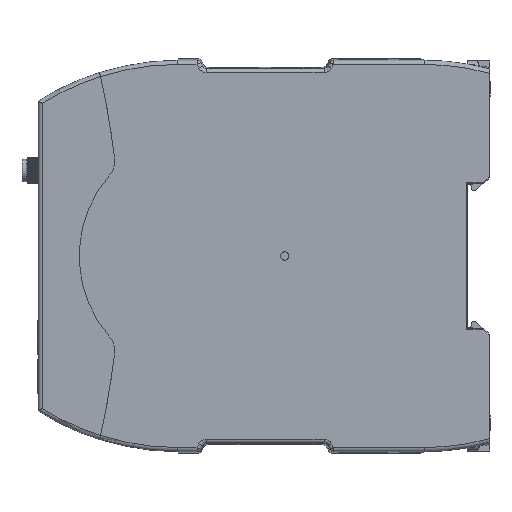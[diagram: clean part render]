
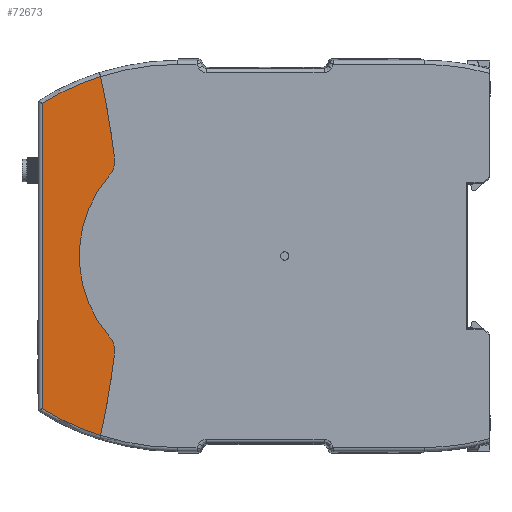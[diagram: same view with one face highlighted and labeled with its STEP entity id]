
A CAD part, left-side view. The second image highlights one B-rep face of the part: STEP entity #72673.
In plain terms, the highlighted planar face has unit normal (-1, 0, 0) as drawn and (0, 0, 1) by its records, which use the part's own axes.
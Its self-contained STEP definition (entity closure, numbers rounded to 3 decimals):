
#7234=FACE_OUTER_BOUND('',#11384,.T.);
#11384=EDGE_LOOP('',(#59956,#59957,#59958,#59959,#59960,#59961,#59962,#59963));
#15590=CIRCLE('',#78708,200.);
#15593=CIRCLE('',#78718,62.539);
#15594=CIRCLE('',#78720,5.);
#15595=CIRCLE('',#78721,30.);
#15596=CIRCLE('',#78722,5.);
#15597=CIRCLE('',#78723,200.);
#15598=CIRCLE('',#78724,62.539);
#20245=LINE('',#131147,#26686);
#26686=VECTOR('',#93949,74.369);
#33362=VERTEX_POINT('',#131081);
#33363=VERTEX_POINT('',#131083);
#33372=VERTEX_POINT('',#131120);
#33373=VERTEX_POINT('',#131137);
#33374=VERTEX_POINT('',#131139);
#33375=VERTEX_POINT('',#131141);
#33376=VERTEX_POINT('',#131143);
#33377=VERTEX_POINT('',#131145);
#42652=EDGE_CURVE('',#33362,#33363,#15590,.T.);
#42665=EDGE_CURVE('',#33372,#33363,#15593,.T.);
#42667=EDGE_CURVE('',#33362,#33373,#15594,.T.);
#42668=EDGE_CURVE('',#33373,#33374,#15595,.T.);
#42669=EDGE_CURVE('',#33374,#33375,#15596,.T.);
#42670=EDGE_CURVE('',#33376,#33375,#15597,.T.);
#42671=EDGE_CURVE('',#33376,#33377,#15598,.T.);
#42672=EDGE_CURVE('',#33377,#33372,#20245,.T.);
#59956=ORIENTED_EDGE('',*,*,#42667,.T.);
#59957=ORIENTED_EDGE('',*,*,#42668,.T.);
#59958=ORIENTED_EDGE('',*,*,#42669,.T.);
#59959=ORIENTED_EDGE('',*,*,#42670,.F.);
#59960=ORIENTED_EDGE('',*,*,#42671,.T.);
#59961=ORIENTED_EDGE('',*,*,#42672,.T.);
#59962=ORIENTED_EDGE('',*,*,#42665,.T.);
#59963=ORIENTED_EDGE('',*,*,#42652,.F.);
#69250=PLANE('',#78719);
#72673=ADVANCED_FACE('',(#7234),#69250,.T.);
#78708=AXIS2_PLACEMENT_3D('',#131084,#93909,#93910);
#78718=AXIS2_PLACEMENT_3D('',#131121,#93935,#93936);
#78719=AXIS2_PLACEMENT_3D('',#131136,#93937,#93938);
#78720=AXIS2_PLACEMENT_3D('',#131138,#93939,#93940);
#78721=AXIS2_PLACEMENT_3D('',#131140,#93941,#93942);
#78722=AXIS2_PLACEMENT_3D('',#131142,#93943,#93944);
#78723=AXIS2_PLACEMENT_3D('',#131144,#93945,#93946);
#78724=AXIS2_PLACEMENT_3D('',#131146,#93947,#93948);
#93909=DIRECTION('center_axis',(0.,0.,-1.));
#93910=DIRECTION('ref_axis',(-0.118,-0.993,0.));
#93935=DIRECTION('center_axis',(0.,0.,1.));
#93936=DIRECTION('ref_axis',(-0.849,0.528,0.));
#93937=DIRECTION('center_axis',(0.,0.,1.));
#93938=DIRECTION('ref_axis',(1.,0.,0.));
#93939=DIRECTION('center_axis',(0.,0.,1.));
#93940=DIRECTION('ref_axis',(-0.118,-0.993,0.));
#93941=DIRECTION('center_axis',(0.,0.,-1.));
#93942=DIRECTION('ref_axis',(-0.658,0.753,0.));
#93943=DIRECTION('center_axis',(0.,0.,1.));
#93944=DIRECTION('ref_axis',(-0.658,-0.753,0.));
#93945=DIRECTION('center_axis',(0.,0.,-1.));
#93946=DIRECTION('ref_axis',(0.218,-0.976,0.));
#93947=DIRECTION('center_axis',(0.,0.,1.));
#93948=DIRECTION('ref_axis',(0.954,0.301,0.));
#93949=DIRECTION('',(-1.,0.,0.));
#131081=CARTESIAN_POINT('',(-23.611,91.399,11.25));
#131083=CARTESIAN_POINT('',(-43.697,94.832,11.25));
#131084=CARTESIAN_POINT('Origin',(0.,290.,11.25));
#131120=CARTESIAN_POINT('',(-37.185,109.,11.25));
#131121=CARTESIAN_POINT('Origin',(15.939,76.,11.25));
#131136=CARTESIAN_POINT('Origin',(0.,0.,11.25));
#131137=CARTESIAN_POINT('',(-19.732,92.597,11.25));
#131138=CARTESIAN_POINT('Origin',(-23.021,96.364,11.25));
#131139=CARTESIAN_POINT('',(19.732,92.597,11.25));
#131140=CARTESIAN_POINT('Origin',(0.,70.,11.25));
#131141=CARTESIAN_POINT('',(23.611,91.399,11.25));
#131142=CARTESIAN_POINT('Origin',(23.021,96.364,11.25));
#131143=CARTESIAN_POINT('',(43.697,94.832,11.25));
#131144=CARTESIAN_POINT('Origin',(0.,290.,11.25));
#131145=CARTESIAN_POINT('',(37.185,109.,11.25));
#131146=CARTESIAN_POINT('Origin',(-15.939,76.,11.25));
#131147=CARTESIAN_POINT('',(37.185,109.,11.25));
